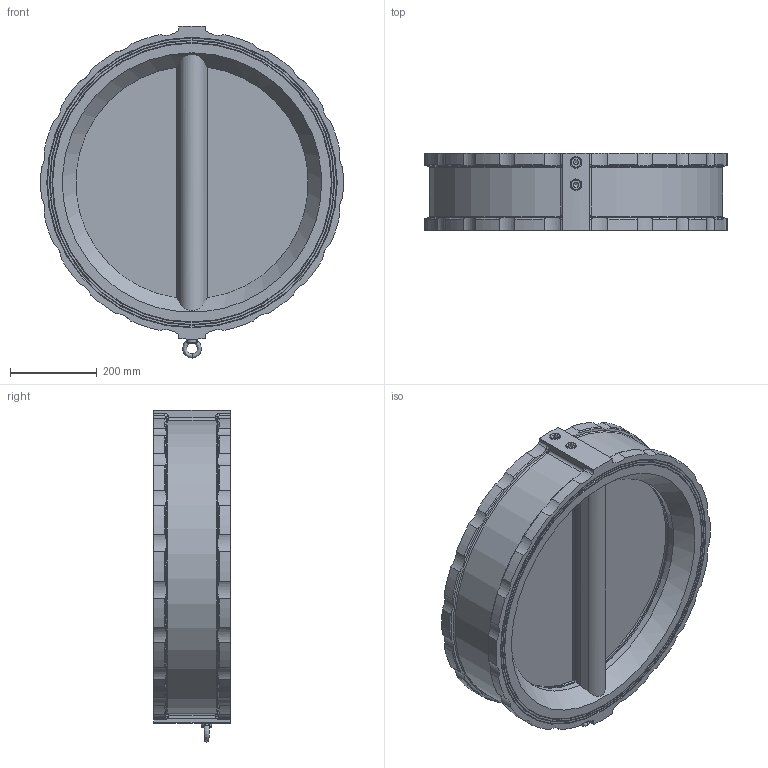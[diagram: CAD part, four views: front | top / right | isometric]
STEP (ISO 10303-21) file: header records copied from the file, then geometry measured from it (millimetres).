
FILE_DESCRIPTION (( 'STEP AP203' ), '1' );
FILE_NAME ('5306 DN600 ×°Åä.STEP', '2025-07-22T03:52:29', ( '' ), ( '' ), 'SwSTEP 2.0', 'SolidWorks 2018', '' );
FILE_SCHEMA (( 'CONFIG_CONTROL_DESIGN' ));
Length unit declared in the file: millimetre
Products named in the file (7): GB╱T 77-2007[内六角平端紧定螺钉M27×27]_M24×25; 5306 DN600 概粣; 600蝶; 5306 DN600 蚾饜; 5306 DN600 概啣; GB╱T 825-1988[吊环螺钉M10]_M10; 5306 DN600 概极
Assembly tree (11 placements, depth 2):
  5306 DN600 蚾饜
    5306 DN600 概极
    600蝶
    5306 DN600 概粣  x2
    5306 DN600 概啣  x2
    GB╱T 77-2007[内六角平端紧定螺钉M27×27]_M24×25  x4
    GB╱T 825-1988[吊环螺钉M10]_M10
Bounding box: 699.6 x 178 x 767.6 mm (x, y, z)
Volume: 23180661.6 mm3; surface area: 2090050.6 mm2
Topology: 12 solids, 12 shells, 420 faces, 1074 edges, 669 vertices
Faces by surface type: cylinder 155, plane 123, bspline 52, torus 51, cone 39
Full cylindrical faces by diameter (mm): 8.5 x1, 10 x1, 15 x1, 22 x6, 27 x8, 624 x1
Entity records: 16668 total; most frequent: CARTESIAN_POINT 8295, ORIENTED_EDGE 1622, DIRECTION 1473, EDGE_CURVE 811, AXIS2_PLACEMENT_3D 626, VERTEX_POINT 536, EDGE_LOOP 395, FACE_OUTER_BOUND 346
